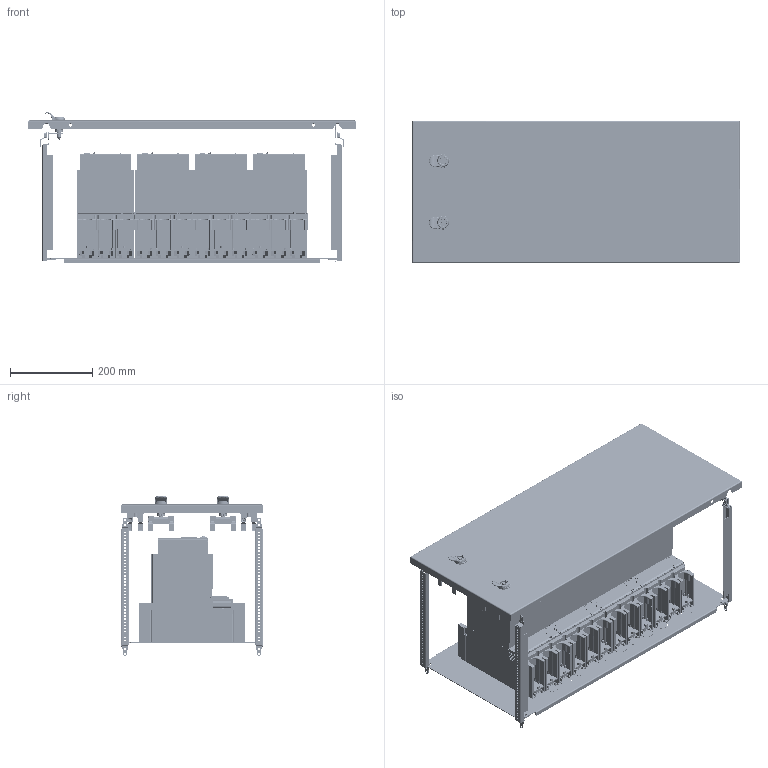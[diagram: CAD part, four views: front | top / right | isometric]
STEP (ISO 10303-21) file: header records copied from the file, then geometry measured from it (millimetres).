
FILE_DESCRIPTION(('CAx-IF Rec.Pracs.---Model Styling and Organization---1.2---2011-12-15','CAx-IF Rec.Pracs.---Geometric and Assembly Validation Properties---4.1---2014-06-16','CAx-IF Rec.Pracs.---PMI Polyline Presentation---2.0---2013-05-24'),'2;1');
FILE_NAME('R5PKEB7V82116 (F-MO).stp','2021-07-29T02:55:36+03:00',(''),(''),'STEP Interface 4.4 by CT CoreTechnologie','3D_Evolution4.4 by CT CoreTechnologie','');
FILE_SCHEMA(('AUTOMOTIVE_DESIGN { 1 0 10303 214 1 1 1 1 }'));
Length unit declared in the file: millimetre
Products named in the file (1): R5PKEB7V82116 (F-MO)
Bounding box: 794 x 345 x 386.89 mm (x, y, z)
Surface area: 4831626.4 mm2 (no closed solid volume)
Topology: 0 solids, 227 shells, 24636 faces, 71889 edges, 47140 vertices
Faces by surface type: plane 15524, cylinder 7279, bspline 1833
Entity records: 854101 total; most frequent: CARTESIAN_POINT 196970, ORIENTED_EDGE 142946, DIRECTION 131403, EDGE_CURVE 71487, VECTOR 54373, LINE 54373, VERTEX_POINT 47224, AXIS2_PLACEMENT_3D 38515
